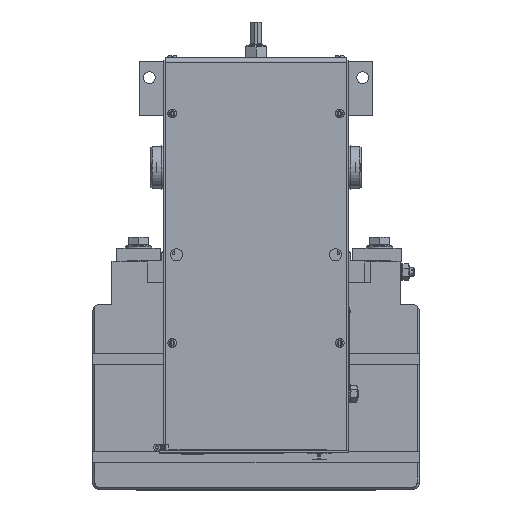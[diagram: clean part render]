
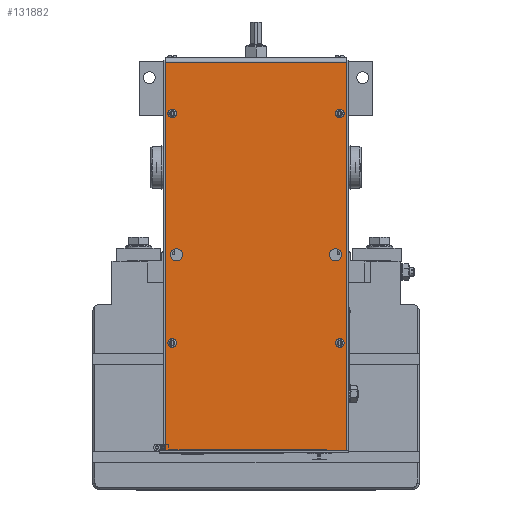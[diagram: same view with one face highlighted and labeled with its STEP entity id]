
A CAD part, top view. The second image highlights one B-rep face of the part: STEP entity #131882.
In plain terms, the highlighted planar face has unit normal (0, 0, 1).
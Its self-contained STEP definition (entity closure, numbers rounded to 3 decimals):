
#8906=FACE_BOUND('',#26431,.T.);
#8907=FACE_BOUND('',#26432,.T.);
#8908=FACE_BOUND('',#26433,.T.);
#8909=FACE_BOUND('',#26434,.T.);
#8910=FACE_BOUND('',#26435,.T.);
#8911=FACE_BOUND('',#26436,.T.);
#12125=PLANE('',#137416);
#18966=FACE_OUTER_BOUND('',#26430,.T.);
#26430=EDGE_LOOP('',(#114094,#114095,#114096,#114097));
#26431=EDGE_LOOP('',(#114098,#114099));
#26432=EDGE_LOOP('',(#114100,#114101));
#26433=EDGE_LOOP('',(#114102,#114103));
#26434=EDGE_LOOP('',(#114104,#114105));
#26435=EDGE_LOOP('',(#114106,#114107));
#26436=EDGE_LOOP('',(#114108,#114109));
#37493=LINE('',#226975,#48647);
#37494=LINE('',#226981,#48648);
#37496=LINE('',#226984,#48650);
#37497=LINE('',#226985,#48651);
#48647=VECTOR('',#157511,10.);
#48648=VECTOR('',#157518,10.);
#48650=VECTOR('',#157522,10.);
#48651=VECTOR('',#157523,10.);
#50544=CIRCLE('',#137141,4.);
#50545=CIRCLE('',#137142,4.);
#50555=CIRCLE('',#137159,4.);
#50556=CIRCLE('',#137160,4.);
#50670=CIRCLE('',#137417,4.);
#50671=CIRCLE('',#137418,4.);
#50672=CIRCLE('',#137419,4.);
#50673=CIRCLE('',#137420,4.);
#50674=CIRCLE('',#137421,5.5);
#50675=CIRCLE('',#137422,5.5);
#50676=CIRCLE('',#137423,5.5);
#50677=CIRCLE('',#137424,5.5);
#61999=VERTEX_POINT('',#226152);
#62000=VERTEX_POINT('',#226153);
#62013=VERTEX_POINT('',#226229);
#62014=VERTEX_POINT('',#226230);
#62249=VERTEX_POINT('',#226972);
#62250=VERTEX_POINT('',#226974);
#62251=VERTEX_POINT('',#226978);
#62252=VERTEX_POINT('',#226980);
#62253=VERTEX_POINT('',#226986);
#62254=VERTEX_POINT('',#226987);
#62255=VERTEX_POINT('',#226990);
#62256=VERTEX_POINT('',#226991);
#62257=VERTEX_POINT('',#226994);
#62258=VERTEX_POINT('',#226995);
#62259=VERTEX_POINT('',#226998);
#62260=VERTEX_POINT('',#226999);
#79427=EDGE_CURVE('',#61999,#62000,#50544,.T.);
#79428=EDGE_CURVE('',#62000,#61999,#50545,.T.);
#79447=EDGE_CURVE('',#62013,#62014,#50555,.T.);
#79448=EDGE_CURVE('',#62014,#62013,#50556,.T.);
#79818=EDGE_CURVE('',#62249,#62250,#37493,.T.);
#79821=EDGE_CURVE('',#62251,#62252,#37494,.T.);
#79823=EDGE_CURVE('',#62251,#62250,#37496,.T.);
#79824=EDGE_CURVE('',#62252,#62249,#37497,.T.);
#79825=EDGE_CURVE('',#62253,#62254,#50670,.T.);
#79826=EDGE_CURVE('',#62254,#62253,#50671,.T.);
#79827=EDGE_CURVE('',#62255,#62256,#50672,.T.);
#79828=EDGE_CURVE('',#62256,#62255,#50673,.T.);
#79829=EDGE_CURVE('',#62257,#62258,#50674,.T.);
#79830=EDGE_CURVE('',#62258,#62257,#50675,.T.);
#79831=EDGE_CURVE('',#62259,#62260,#50676,.T.);
#79832=EDGE_CURVE('',#62260,#62259,#50677,.T.);
#114094=ORIENTED_EDGE('',*,*,#79823,.T.);
#114095=ORIENTED_EDGE('',*,*,#79818,.F.);
#114096=ORIENTED_EDGE('',*,*,#79824,.F.);
#114097=ORIENTED_EDGE('',*,*,#79821,.F.);
#114098=ORIENTED_EDGE('',*,*,#79427,.T.);
#114099=ORIENTED_EDGE('',*,*,#79428,.T.);
#114100=ORIENTED_EDGE('',*,*,#79825,.T.);
#114101=ORIENTED_EDGE('',*,*,#79826,.T.);
#114102=ORIENTED_EDGE('',*,*,#79447,.T.);
#114103=ORIENTED_EDGE('',*,*,#79448,.T.);
#114104=ORIENTED_EDGE('',*,*,#79827,.T.);
#114105=ORIENTED_EDGE('',*,*,#79828,.T.);
#114106=ORIENTED_EDGE('',*,*,#79829,.T.);
#114107=ORIENTED_EDGE('',*,*,#79830,.T.);
#114108=ORIENTED_EDGE('',*,*,#79831,.T.);
#114109=ORIENTED_EDGE('',*,*,#79832,.T.);
#131882=ADVANCED_FACE('',(#18966,#8906,#8907,#8908,#8909,#8910,#8911),#12125,
 .T.);
#137141=AXIS2_PLACEMENT_3D('',#226154,#156708,#156709);
#137142=AXIS2_PLACEMENT_3D('',#226155,#156710,#156711);
#137159=AXIS2_PLACEMENT_3D('',#226231,#156749,#156750);
#137160=AXIS2_PLACEMENT_3D('',#226232,#156751,#156752);
#137416=AXIS2_PLACEMENT_3D('',#226983,#157520,#157521);
#137417=AXIS2_PLACEMENT_3D('',#226988,#157524,#157525);
#137418=AXIS2_PLACEMENT_3D('',#226989,#157526,#157527);
#137419=AXIS2_PLACEMENT_3D('',#226992,#157528,#157529);
#137420=AXIS2_PLACEMENT_3D('',#226993,#157530,#157531);
#137421=AXIS2_PLACEMENT_3D('',#226996,#157532,#157533);
#137422=AXIS2_PLACEMENT_3D('',#226997,#157534,#157535);
#137423=AXIS2_PLACEMENT_3D('',#227000,#157536,#157537);
#137424=AXIS2_PLACEMENT_3D('',#227001,#157538,#157539);
#156708=DIRECTION('center_axis',(0.,0.,
-1.));
#156709=DIRECTION('ref_axis',(0.,1.,0.));
#156710=DIRECTION('center_axis',(0.,0.,
-1.));
#156711=DIRECTION('ref_axis',(0.,1.,0.));
#156749=DIRECTION('center_axis',(0.,0.,
-1.));
#156750=DIRECTION('ref_axis',(0.,1.,0.));
#156751=DIRECTION('center_axis',(0.,0.,
-1.));
#156752=DIRECTION('ref_axis',(0.,1.,0.));
#157511=DIRECTION('',(1.,0.,0.));
#157518=DIRECTION('',(-1.,0.,0.));
#157520=DIRECTION('center_axis',(0.,0.,
1.));
#157521=DIRECTION('ref_axis',(0.,-1.,0.));
#157522=DIRECTION('',(0.,1.,0.));
#157523=DIRECTION('',(0.,1.,0.));
#157524=DIRECTION('center_axis',(0.,0.,
-1.));
#157525=DIRECTION('ref_axis',(0.,1.,0.));
#157526=DIRECTION('center_axis',(0.,0.,
-1.));
#157527=DIRECTION('ref_axis',(0.,1.,0.));
#157528=DIRECTION('center_axis',(0.,0.,
-1.));
#157529=DIRECTION('ref_axis',(0.,1.,0.));
#157530=DIRECTION('center_axis',(0.,0.,
-1.));
#157531=DIRECTION('ref_axis',(0.,1.,0.));
#157532=DIRECTION('center_axis',(0.,0.,
-1.));
#157533=DIRECTION('ref_axis',(0.,-1.,0.));
#157534=DIRECTION('center_axis',(0.,0.,
-1.));
#157535=DIRECTION('ref_axis',(0.,-1.,0.));
#157536=DIRECTION('center_axis',(0.,0.,
-1.));
#157537=DIRECTION('ref_axis',(0.,-1.,0.));
#157538=DIRECTION('center_axis',(0.,0.,
-1.));
#157539=DIRECTION('ref_axis',(0.,-1.,0.));
#226152=CARTESIAN_POINT('',(-49.,-73.,769.));
#226153=CARTESIAN_POINT('',(-49.,-81.,769.));
#226154=CARTESIAN_POINT('Origin',(-49.,-77.,769.));
#226155=CARTESIAN_POINT('Origin',(-49.,-77.,769.));
#226229=CARTESIAN_POINT('',(-260.,-73.,769.));
#226230=CARTESIAN_POINT('',(-260.,-81.,769.));
#226231=CARTESIAN_POINT('Origin',(-260.,-77.,769.));
#226232=CARTESIAN_POINT('Origin',(-260.,-77.,769.));
#226972=CARTESIAN_POINT('',(-359.,83.5,769.));
#226974=CARTESIAN_POINT('',(-2.,83.5,769.));
#226975=CARTESIAN_POINT('',(0.,83.5,769.));
#226978=CARTESIAN_POINT('',(-2.,-83.5,769.));
#226980=CARTESIAN_POINT('',(-359.,-83.5,769.));
#226981=CARTESIAN_POINT('',(-359.,-83.5,769.));
#226983=CARTESIAN_POINT('Origin',(-179.5,0.,769.));
#226984=CARTESIAN_POINT('',(-2.,-41.75,769.));
#226985=CARTESIAN_POINT('',(-359.,83.5,769.));
#226986=CARTESIAN_POINT('',(-49.,81.,769.));
#226987=CARTESIAN_POINT('',(-49.,73.,769.));
#226988=CARTESIAN_POINT('Origin',(-49.,77.,769.));
#226989=CARTESIAN_POINT('Origin',(-49.,77.,769.));
#226990=CARTESIAN_POINT('',(-260.,81.,769.));
#226991=CARTESIAN_POINT('',(-260.,73.,769.));
#226992=CARTESIAN_POINT('Origin',(-260.,77.,769.));
#226993=CARTESIAN_POINT('Origin',(-260.,77.,769.));
#226994=CARTESIAN_POINT('',(-179.,67.5,769.));
#226995=CARTESIAN_POINT('',(-179.,78.5,769.));
#226996=CARTESIAN_POINT('Origin',(-179.,73.,769.));
#226997=CARTESIAN_POINT('Origin',(-179.,73.,769.));
#226998=CARTESIAN_POINT('',(-179.,-78.5,769.));
#226999=CARTESIAN_POINT('',(-179.,-67.5,769.));
#227000=CARTESIAN_POINT('Origin',(-179.,-73.,769.));
#227001=CARTESIAN_POINT('Origin',(-179.,-73.,769.));
